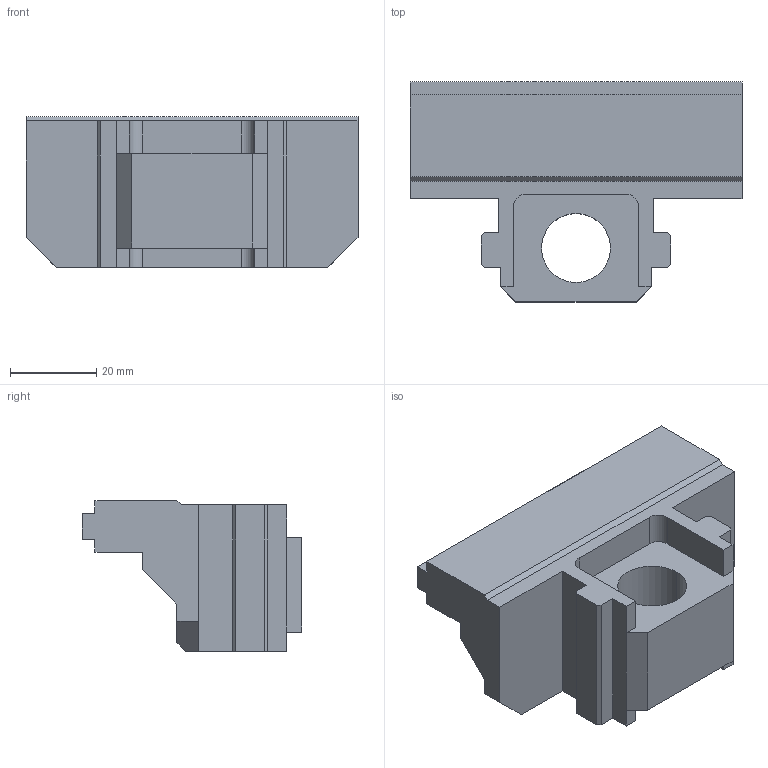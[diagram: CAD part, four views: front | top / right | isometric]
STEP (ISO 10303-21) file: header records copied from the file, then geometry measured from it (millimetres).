
FILE_DESCRIPTION (( 'STEP AP214' ), '1' );
FILE_NAME ('68077-7720.STEP', '2025-03-20T14:18:18', ( '' ), ( '' ), 'SwSTEP 2.0', 'SolidWorks 2021', '' );
FILE_SCHEMA (( 'AUTOMOTIVE_DESIGN' ));
Length unit declared in the file: millimetre
Products named in the file (1): 68077-7720
Bounding box: 77 x 51 x 35 mm (x, y, z)
Volume: 54273 mm3; surface area: 14834.6 mm2
Topology: 1 solids, 1 shells, 55 faces, 155 edges, 102 vertices
Faces by surface type: plane 49, cylinder 6
Entity records: 1787 total; most frequent: CARTESIAN_POINT 313, ORIENTED_EDGE 310, DIRECTION 279, EDGE_CURVE 155, VECTOR 143, LINE 143, VERTEX_POINT 102, AXIS2_PLACEMENT_3D 68
